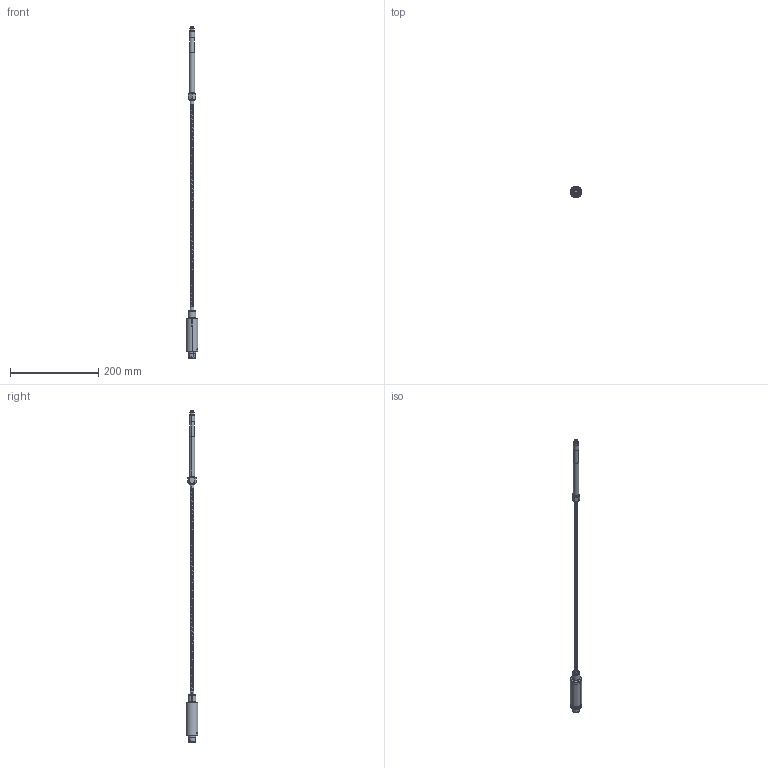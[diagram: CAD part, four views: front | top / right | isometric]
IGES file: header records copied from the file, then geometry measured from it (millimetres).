
Start section: SolidWorks IGES file using analytic representation for surfaces
Global section: file name: C:\Documents and Settings\cherchi\Desktop\Melt\M31\3D\Iges 5.3\M31.IGS; native system: SolidWorks 2010; preprocessor: SolidWorks 2010; author: giuseppe.cherchi; date: 100729.122231; units: millimetre
Bounding box: 26.5 x 26.5 x 750.97 mm (x, y, z)
Surface area: 47172.4 mm2 (no closed solid volume)
Topology: 0 solids, 0 shells, 621 faces, 11239 edges, 11239 vertices
Faces by surface type: revolution 340, bspline 281
